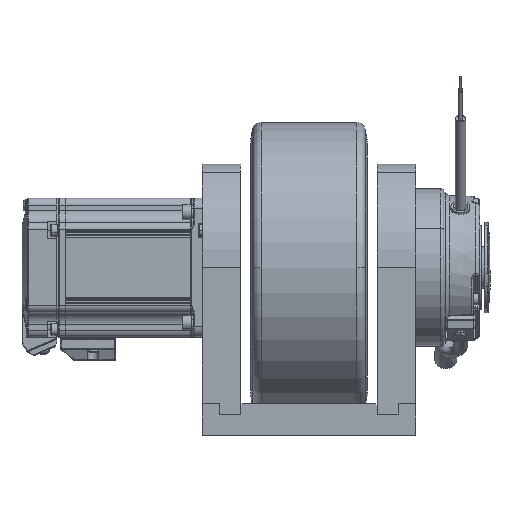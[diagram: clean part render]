
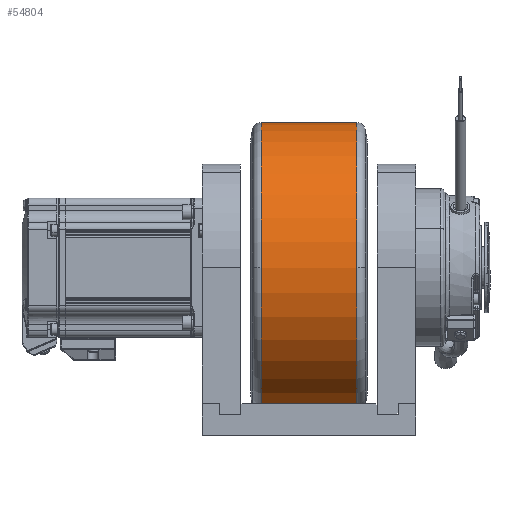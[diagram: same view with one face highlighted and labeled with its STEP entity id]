
A CAD part, front view. The second image highlights one B-rep face of the part: STEP entity #54804.
In plain terms, the highlighted cylindrical face has radius 83.5 mm (diameter 167 mm), a partial arc.
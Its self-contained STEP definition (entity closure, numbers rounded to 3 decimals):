
#2173 = CARTESIAN_POINT ( 'NONE',  ( -86.776, 0.717, 22.855 ) ) ;
#2174 = DIRECTION ( 'NONE',  ( 1., 0., 0. ) ) ;
#2176 = DIRECTION ( 'NONE',  ( 0., 1., 0. ) ) ;
#2183 = CARTESIAN_POINT ( 'NONE',  ( -31.693, 0.717, 22.855 ) ) ;
#2185 = DIRECTION ( 'NONE',  ( -1., 0., 0. ) ) ;
#2187 = DIRECTION ( 'NONE',  ( 0., 1., 0. ) ) ;
#2490 = CARTESIAN_POINT ( 'NONE',  ( -11.235, 0.717, -60.645 ) ) ;
#2493 = DIRECTION ( 'NONE',  ( 1., 0., 0. ) ) ;
#2502 = CARTESIAN_POINT ( 'NONE',  ( -31.693, 0.717, 22.855 ) ) ;
#2503 = DIRECTION ( 'NONE',  ( -1., 0., 0. ) ) ;
#2505 = DIRECTION ( 'NONE',  ( 0., 1., 0. ) ) ;
#4163 = CIRCLE ( 'NONE', #72368, 83.5 ) ;
#4167 = CIRCLE ( 'NONE', #72370, 83.5 ) ;
#4275 = LINE ( 'NONE', #2490, #4278 ) ;
#4278 = VECTOR ( 'NONE', #2493, 1000. ) ;
#4279 = CIRCLE ( 'NONE', #72416, 83.5 ) ;
#4917 = CIRCLE ( 'NONE', #72724, 83.5 ) ;
#4918 = LINE ( 'NONE', #27817, #4920 ) ;
#4920 = VECTOR ( 'NONE', #27818, 1000. ) ;
#9159 = EDGE_LOOP ( 'NONE', ( #54040, #53995, #54233, #54138, #53887, #53625 ) ) ;
#27817 = CARTESIAN_POINT ( 'NONE',  ( -11.235, 0.717, 106.355 ) ) ;
#27818 = DIRECTION ( 'NONE',  ( 1., 0., 0. ) ) ;
#27824 = CARTESIAN_POINT ( 'NONE',  ( -86.776, 0.717, 22.855 ) ) ;
#27825 = DIRECTION ( 'NONE',  ( 1., 0., 0. ) ) ;
#27826 = DIRECTION ( 'NONE',  ( 0., 1., 0. ) ) ;
#30374 = VERTEX_POINT ( 'NONE', #92197 ) ;
#30431 = VERTEX_POINT ( 'NONE', #92309 ) ;
#30448 = VERTEX_POINT ( 'NONE', #92343 ) ;
#30459 = VERTEX_POINT ( 'NONE', #92365 ) ;
#30462 = VERTEX_POINT ( 'NONE', #92371 ) ;
#30468 = VERTEX_POINT ( 'NONE', #92383 ) ;
#31249 = CARTESIAN_POINT ( 'NONE',  ( -11.235, 0.717, 22.855 ) ) ;
#31251 = DIRECTION ( 'NONE',  ( 1., 0., 0. ) ) ;
#31267 = DIRECTION ( 'NONE',  ( 0., 0., -1. ) ) ;
#36546 = AXIS2_PLACEMENT_3D ( 'NONE', #31249, #31251, #31267 ) ;
#41853 = EDGE_CURVE ( 'NONE', #30374, #30468, #4163, .T. ) ;
#41855 = EDGE_CURVE ( 'NONE', #30462, #30459, #4167, .T. ) ;
#41909 = EDGE_CURVE ( 'NONE', #30468, #30462, #4275, .T. ) ;
#41911 = EDGE_CURVE ( 'NONE', #30459, #30431, #4279, .T. ) ;
#43294 = EDGE_CURVE ( 'NONE', #30448, #30374, #4917, .T. ) ;
#43298 = EDGE_CURVE ( 'NONE', #30448, #30431, #4918, .T. ) ;
#45985 = FACE_OUTER_BOUND ( 'NONE', #9159, .T. ) ;
#46005 = CYLINDRICAL_SURFACE ( 'NONE', #36546, 83.5 ) ;
#53625 = ORIENTED_EDGE ( 'NONE', *, *, #41911, .T. ) ;
#53887 = ORIENTED_EDGE ( 'NONE', *, *, #41855, .T. ) ;
#53995 = ORIENTED_EDGE ( 'NONE', *, *, #43294, .T. ) ;
#54040 = ORIENTED_EDGE ( 'NONE', *, *, #43298, .F. ) ;
#54138 = ORIENTED_EDGE ( 'NONE', *, *, #41909, .T. ) ;
#54233 = ORIENTED_EDGE ( 'NONE', *, *, #41853, .T. ) ;
#54804 = ADVANCED_FACE ( 'NONE', ( #45985 ), #46005, .T. ) ;
#72368 = AXIS2_PLACEMENT_3D ( 'NONE', #2173, #2174, #2176 ) ;
#72370 = AXIS2_PLACEMENT_3D ( 'NONE', #2183, #2185, #2187 ) ;
#72416 = AXIS2_PLACEMENT_3D ( 'NONE', #2502, #2503, #2505 ) ;
#72724 = AXIS2_PLACEMENT_3D ( 'NONE', #27824, #27825, #27826 ) ;
#92197 = CARTESIAN_POINT ( 'NONE',  ( -86.776, -82.783, 22.855 ) ) ;
#92309 = CARTESIAN_POINT ( 'NONE',  ( -31.693, 0.717, 106.355 ) ) ;
#92343 = CARTESIAN_POINT ( 'NONE',  ( -86.776, 0.717, 106.355 ) ) ;
#92365 = CARTESIAN_POINT ( 'NONE',  ( -31.693, -82.783, 22.855 ) ) ;
#92371 = CARTESIAN_POINT ( 'NONE',  ( -31.693, 0.717, -60.645 ) ) ;
#92383 = CARTESIAN_POINT ( 'NONE',  ( -86.776, 0.717, -60.645 ) ) ;
